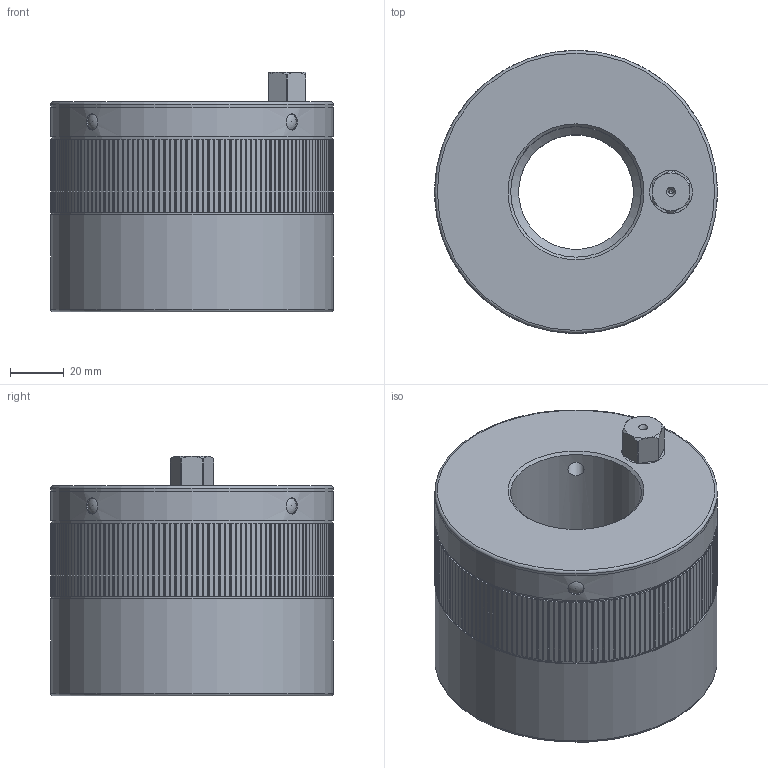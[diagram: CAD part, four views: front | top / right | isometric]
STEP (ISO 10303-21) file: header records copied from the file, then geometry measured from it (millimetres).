
FILE_DESCRIPTION(/* description */ ('Unknown','CAx-IF Rec.Pracs.---Representation and Presentation of Product Manufacturing Information (PMI)---4.0---2014-10-13','CAx-IF Rec.Pracs.---3D Tessellated Geometry---0.4---2014-09-14','2;1'),/* implementation_level */ '2;1');
FILE_NAME(/* name */ 'MDA 180_SW14_M48',/* time_stamp */ '2023-09-15T11:12:59+02:00',/* author */ ('Unknown'),/* organization */ ('Unknown'),/* preprocessor_version */ 'ST-DEVELOPER v18.102',/* originating_system */ 'Solid Edge',/* authorisation */ 'Unknown');
FILE_SCHEMA (('AP242_MANAGED_MODEL_BASED_3D_ENGINEERING_MIM_LF { 1 0 10303 442 1 1 4 }'));
Length unit declared in the file: millimetre
Products named in the file (7): 05933056; 43733051; 42231918; KT100003; 46432086; KT100869; 46331559
Assembly tree (9 placements, depth 2):
  05933056
    43733051
    42231918
    KT100003  x4
    46432086
    KT100869
    46331559
Bounding box: 105 x 105 x 89 mm (x, y, z)
Volume: 483215.4 mm3; surface area: 142845.9 mm2
Topology: 9 solids, 9 shells, 617 faces, 1758 edges, 1160 vertices
Faces by surface type: plane 354, cylinder 205, cone 36, torus 10, sphere 8, bspline 4
Full cylindrical faces by diameter (mm): 1.6 x2, 6 x12, 16 x2, 16.5 x1, 42.587 x1, 48.5 x1, 62 x3, 83.2 x1, 88 x1, 90 x1, 95.5 x1, 95.9 x1, 96 x3, 104 x2, 105 x3
Entity records: 20001 total; most frequent: CARTESIAN_POINT 3917, ORIENTED_EDGE 3254, DIRECTION 3250, EDGE_CURVE 1627, LINE 1154, VECTOR 1154, VERTEX_POINT 1117, AXIS2_PLACEMENT_3D 1048
